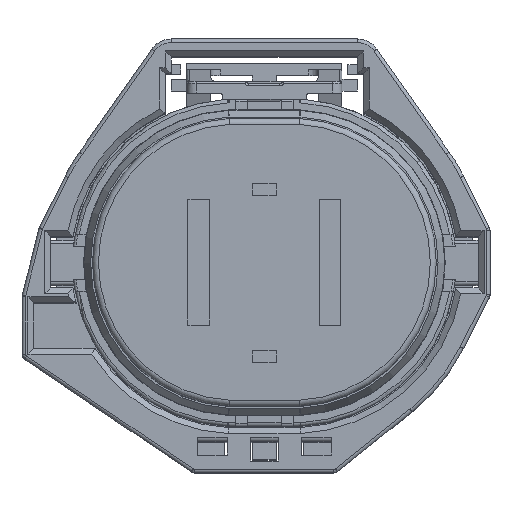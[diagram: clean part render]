
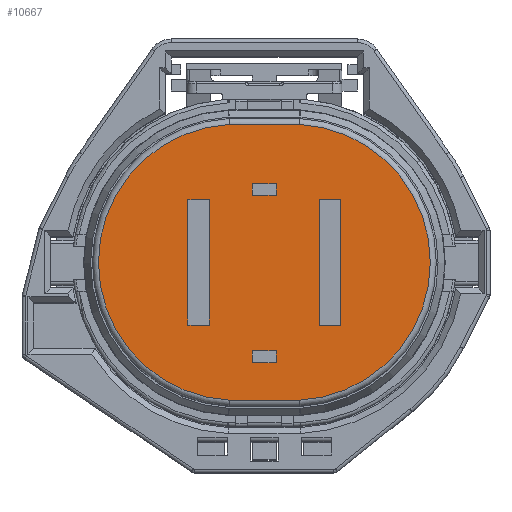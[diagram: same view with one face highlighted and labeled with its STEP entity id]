
A CAD part, top view. The second image highlights one B-rep face of the part: STEP entity #10667.
In plain terms, the highlighted planar face has unit normal (0, 0, 1).
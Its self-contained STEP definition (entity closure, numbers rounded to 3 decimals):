
#32=FACE_BOUND('',#3444,.T.);
#33=FACE_BOUND('',#3445,.T.);
#34=FACE_BOUND('',#3446,.T.);
#35=FACE_BOUND('',#3447,.T.);
#605=LINE('',#16844,#1600);
#606=LINE('',#16859,#1601);
#607=LINE('',#16878,#1602);
#608=LINE('',#16880,#1603);
#609=LINE('',#16882,#1604);
#610=LINE('',#16883,#1605);
#611=LINE('',#16886,#1606);
#612=LINE('',#16888,#1607);
#613=LINE('',#16890,#1608);
#614=LINE('',#16891,#1609);
#615=LINE('',#16894,#1610);
#616=LINE('',#16896,#1611);
#617=LINE('',#16898,#1612);
#618=LINE('',#16899,#1613);
#619=LINE('',#16902,#1614);
#620=LINE('',#16904,#1615);
#621=LINE('',#16906,#1616);
#622=LINE('',#16907,#1617);
#1600=VECTOR('',#13129,10.);
#1601=VECTOR('',#13132,10.);
#1602=VECTOR('',#13141,10.);
#1603=VECTOR('',#13142,10.);
#1604=VECTOR('',#13143,10.);
#1605=VECTOR('',#13144,10.);
#1606=VECTOR('',#13145,10.);
#1607=VECTOR('',#13146,10.);
#1608=VECTOR('',#13147,10.);
#1609=VECTOR('',#13148,10.);
#1610=VECTOR('',#13149,10.);
#1611=VECTOR('',#13150,10.);
#1612=VECTOR('',#13151,10.);
#1613=VECTOR('',#13152,10.);
#1614=VECTOR('',#13153,10.);
#1615=VECTOR('',#13154,10.);
#1616=VECTOR('',#13155,10.);
#1617=VECTOR('',#13156,10.);
#2413=PLANE('',#11449);
#2802=FACE_OUTER_BOUND('',#3443,.T.);
#3443=EDGE_LOOP('',(#7991,#7992,#7993,#7994));
#3444=EDGE_LOOP('',(#7995,#7996,#7997,#7998));
#3445=EDGE_LOOP('',(#7999,#8000,#8001,#8002));
#3446=EDGE_LOOP('',(#8003,#8004,#8005,#8006));
#3447=EDGE_LOOP('',(#8007,#8008,#8009,#8010));
#4047=CIRCLE('',#11443,11.566);
#4048=CIRCLE('',#11447,11.566);
#4800=VERTEX_POINT('',#16813);
#4801=VERTEX_POINT('',#16814);
#4803=VERTEX_POINT('',#16843);
#4804=VERTEX_POINT('',#16858);
#4805=VERTEX_POINT('',#16876);
#4806=VERTEX_POINT('',#16877);
#4807=VERTEX_POINT('',#16879);
#4808=VERTEX_POINT('',#16881);
#4809=VERTEX_POINT('',#16884);
#4810=VERTEX_POINT('',#16885);
#4811=VERTEX_POINT('',#16887);
#4812=VERTEX_POINT('',#16889);
#4813=VERTEX_POINT('',#16892);
#4814=VERTEX_POINT('',#16893);
#4815=VERTEX_POINT('',#16895);
#4816=VERTEX_POINT('',#16897);
#4817=VERTEX_POINT('',#16900);
#4818=VERTEX_POINT('',#16901);
#4819=VERTEX_POINT('',#16903);
#4820=VERTEX_POINT('',#16905);
#5962=EDGE_CURVE('',#4800,#4801,#4047,.T.);
#5966=EDGE_CURVE('',#4801,#4803,#605,.T.);
#5968=EDGE_CURVE('',#4804,#4800,#606,.T.);
#5970=EDGE_CURVE('',#4803,#4804,#4048,.T.);
#5972=EDGE_CURVE('',#4805,#4806,#607,.T.);
#5973=EDGE_CURVE('',#4806,#4807,#608,.T.);
#5974=EDGE_CURVE('',#4807,#4808,#609,.T.);
#5975=EDGE_CURVE('',#4808,#4805,#610,.T.);
#5976=EDGE_CURVE('',#4809,#4810,#611,.T.);
#5977=EDGE_CURVE('',#4810,#4811,#612,.T.);
#5978=EDGE_CURVE('',#4811,#4812,#613,.T.);
#5979=EDGE_CURVE('',#4812,#4809,#614,.T.);
#5980=EDGE_CURVE('',#4813,#4814,#615,.T.);
#5981=EDGE_CURVE('',#4814,#4815,#616,.T.);
#5982=EDGE_CURVE('',#4815,#4816,#617,.T.);
#5983=EDGE_CURVE('',#4816,#4813,#618,.T.);
#5984=EDGE_CURVE('',#4817,#4818,#619,.T.);
#5985=EDGE_CURVE('',#4818,#4819,#620,.T.);
#5986=EDGE_CURVE('',#4819,#4820,#621,.T.);
#5987=EDGE_CURVE('',#4820,#4817,#622,.T.);
#7991=ORIENTED_EDGE('',*,*,#5962,.F.);
#7992=ORIENTED_EDGE('',*,*,#5968,.F.);
#7993=ORIENTED_EDGE('',*,*,#5970,.F.);
#7994=ORIENTED_EDGE('',*,*,#5966,.F.);
#7995=ORIENTED_EDGE('',*,*,#5972,.T.);
#7996=ORIENTED_EDGE('',*,*,#5973,.T.);
#7997=ORIENTED_EDGE('',*,*,#5974,.T.);
#7998=ORIENTED_EDGE('',*,*,#5975,.T.);
#7999=ORIENTED_EDGE('',*,*,#5976,.T.);
#8000=ORIENTED_EDGE('',*,*,#5977,.T.);
#8001=ORIENTED_EDGE('',*,*,#5978,.T.);
#8002=ORIENTED_EDGE('',*,*,#5979,.T.);
#8003=ORIENTED_EDGE('',*,*,#5980,.T.);
#8004=ORIENTED_EDGE('',*,*,#5981,.T.);
#8005=ORIENTED_EDGE('',*,*,#5982,.T.);
#8006=ORIENTED_EDGE('',*,*,#5983,.T.);
#8007=ORIENTED_EDGE('',*,*,#5984,.T.);
#8008=ORIENTED_EDGE('',*,*,#5985,.T.);
#8009=ORIENTED_EDGE('',*,*,#5986,.T.);
#8010=ORIENTED_EDGE('',*,*,#5987,.T.);
#10667=ADVANCED_FACE('',(#2802,#32,#33,#34,#35),#2413,.T.);
#11443=AXIS2_PLACEMENT_3D('',#16815,#13124,#13125);
#11447=AXIS2_PLACEMENT_3D('',#16873,#13135,#13136);
#11449=AXIS2_PLACEMENT_3D('',#16875,#13139,#13140);
#13124=DIRECTION('center_axis',(0.,0.,-1.));
#13125=DIRECTION('ref_axis',(-1.,0.,0.));
#13129=DIRECTION('',(1.,0.,0.));
#13132=DIRECTION('',(-1.,0.,0.));
#13135=DIRECTION('center_axis',(0.,0.,-1.));
#13136=DIRECTION('ref_axis',(1.,0.,0.));
#13139=DIRECTION('center_axis',(0.,0.,1.));
#13140=DIRECTION('ref_axis',(1.,0.,0.));
#13141=DIRECTION('',(0.,1.,0.));
#13142=DIRECTION('',(1.,0.,0.));
#13143=DIRECTION('',(0.,-1.,0.));
#13144=DIRECTION('',(-1.,0.,0.));
#13145=DIRECTION('',(1.,0.,0.));
#13146=DIRECTION('',(0.,-1.,0.));
#13147=DIRECTION('',(-1.,0.,0.));
#13148=DIRECTION('',(0.,1.,0.));
#13149=DIRECTION('',(1.,0.,0.));
#13150=DIRECTION('',(0.,-1.,0.));
#13151=DIRECTION('',(-1.,0.,0.));
#13152=DIRECTION('',(0.,1.,0.));
#13153=DIRECTION('',(1.,0.,0.));
#13154=DIRECTION('',(0.,-1.,0.));
#13155=DIRECTION('',(-1.,0.,0.));
#13156=DIRECTION('',(0.,1.,0.));
#16813=CARTESIAN_POINT('',(17.363,6.1,-2.5));
#16814=CARTESIAN_POINT('',(17.363,29.2,-2.5));
#16815=CARTESIAN_POINT('Origin',(17.966,17.65,-2.5));
#16843=CARTESIAN_POINT('',(23.237,29.2,-2.5));
#16844=CARTESIAN_POINT('',(18.825,29.2,-2.5));
#16858=CARTESIAN_POINT('',(23.237,6.1,-2.5));
#16859=CARTESIAN_POINT('',(21.775,6.1,-2.5));
#16873=CARTESIAN_POINT('Origin',(22.634,17.65,-2.5));
#16875=CARTESIAN_POINT('Origin',(20.3,17.65,-2.5));
#16876=CARTESIAN_POINT('',(19.3,9.25,-2.5));
#16877=CARTESIAN_POINT('',(19.3,10.25,-2.5));
#16878=CARTESIAN_POINT('',(19.3,13.45,-2.5));
#16879=CARTESIAN_POINT('',(21.3,10.25,-2.5));
#16880=CARTESIAN_POINT('',(19.8,10.25,-2.5));
#16881=CARTESIAN_POINT('',(21.3,9.25,-2.5));
#16882=CARTESIAN_POINT('',(21.3,13.95,-2.5));
#16883=CARTESIAN_POINT('',(20.8,9.25,-2.5));
#16884=CARTESIAN_POINT('',(13.9,22.9,-2.5));
#16885=CARTESIAN_POINT('',(15.7,22.9,-2.5));
#16886=CARTESIAN_POINT('',(17.1,22.9,-2.5));
#16887=CARTESIAN_POINT('',(15.7,12.4,-2.5));
#16888=CARTESIAN_POINT('',(15.7,20.275,-2.5));
#16889=CARTESIAN_POINT('',(13.9,12.4,-2.5));
#16890=CARTESIAN_POINT('',(18.,12.4,-2.5));
#16891=CARTESIAN_POINT('',(13.9,15.025,-2.5));
#16892=CARTESIAN_POINT('',(24.9,22.9,-2.5));
#16893=CARTESIAN_POINT('',(26.7,22.9,-2.5));
#16894=CARTESIAN_POINT('',(22.6,22.9,-2.5));
#16895=CARTESIAN_POINT('',(26.7,12.4,-2.5));
#16896=CARTESIAN_POINT('',(26.7,20.275,-2.5));
#16897=CARTESIAN_POINT('',(24.9,12.4,-2.5));
#16898=CARTESIAN_POINT('',(23.5,12.4,-2.5));
#16899=CARTESIAN_POINT('',(24.9,15.025,-2.5));
#16900=CARTESIAN_POINT('',(19.3,24.25,-2.5));
#16901=CARTESIAN_POINT('',(21.3,24.25,-2.5));
#16902=CARTESIAN_POINT('',(19.8,24.25,-2.5));
#16903=CARTESIAN_POINT('',(21.3,23.25,-2.5));
#16904=CARTESIAN_POINT('',(21.3,20.95,-2.5));
#16905=CARTESIAN_POINT('',(19.3,23.25,-2.5));
#16906=CARTESIAN_POINT('',(20.8,23.25,-2.5));
#16907=CARTESIAN_POINT('',(19.3,20.45,-2.5));
